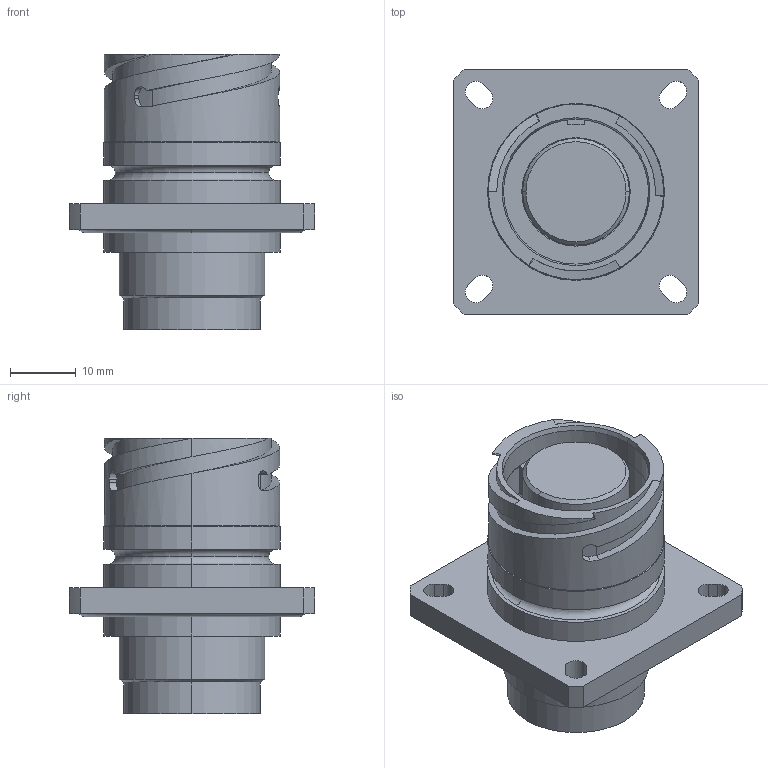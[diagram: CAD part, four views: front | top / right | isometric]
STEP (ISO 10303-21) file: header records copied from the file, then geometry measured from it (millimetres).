
FILE_DESCRIPTION (( 'STEP AP214' ), '1' );
FILE_NAME ('QLINK-RFBX-15XX-S00-R1.STEP', '2025-12-16T15:55:43', ( '' ), ( '' ), 'SwSTEP 2.0', 'SolidWorks 2024', '' );
FILE_SCHEMA (( 'AUTOMOTIVE_DESIGN' ));
Length unit declared in the file: millimetre
Products named in the file (1): QLINK-RFBX-15XX-S00-R1
Bounding box: 37.34 x 37.34 x 41.91 mm (x, y, z)
Volume: 19696.9 mm3; surface area: 10241.7 mm2
Topology: 2 solids, 2 shells, 153 faces, 373 edges, 235 vertices
Faces by surface type: cylinder 68, plane 45, torus 18, bspline 12, cone 10
Entity records: 6191 total; most frequent: CARTESIAN_POINT 2551, DIRECTION 780, ORIENTED_EDGE 746, EDGE_CURVE 373, AXIS2_PLACEMENT_3D 318, VERTEX_POINT 235, EDGE_LOOP 176, CIRCLE 176
